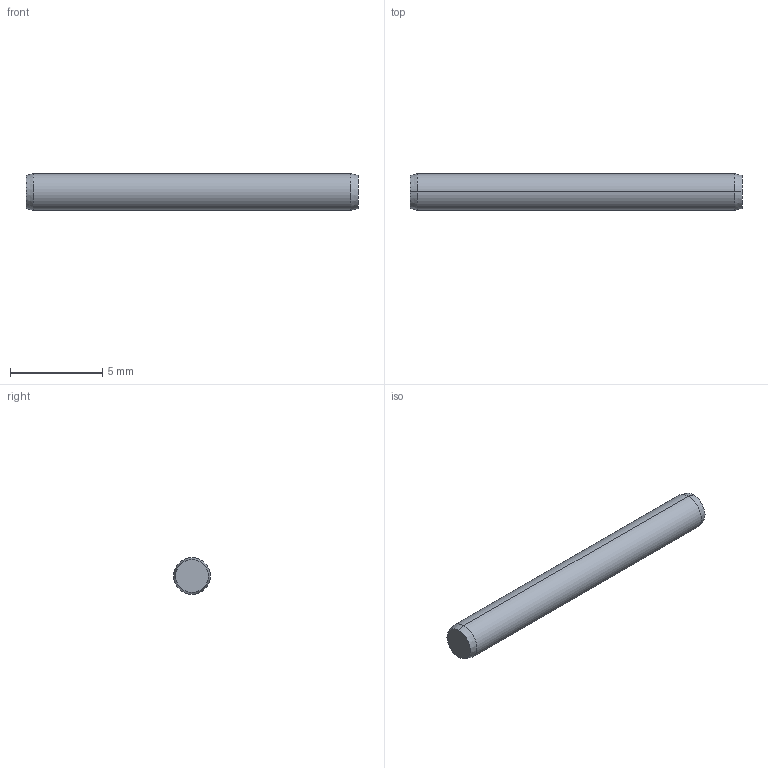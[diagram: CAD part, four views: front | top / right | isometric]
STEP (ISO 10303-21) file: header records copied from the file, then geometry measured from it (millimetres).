
FILE_DESCRIPTION (( 'STEP AP203' ), '1' );
FILE_NAME ('P1206.020-018.step', '2017-06-14T07:57:49', ( 'User' ), ( '' ), 'SwSTEP 2.0', 'SolidWorks 2009', '' );
FILE_SCHEMA (( 'CONFIG_CONTROL_DESIGN' ));
Length unit declared in the file: millimetre
Products named in the file (1): P1206.020-018
Bounding box: 18 x 2 x 2 mm (x, y, z)
Volume: 56.3 mm3; surface area: 118 mm2
Topology: 1 solids, 1 shells, 8 faces, 14 edges, 8 vertices
Faces by surface type: cone 4, cylinder 2, plane 2
Entity records: 271 total; most frequent: DIRECTION 40, CARTESIAN_POINT 31, ORIENTED_EDGE 28, AXIS2_PLACEMENT_3D 17, EDGE_CURVE 14, VERTEX_POINT 8, ADVANCED_FACE 8, EDGE_LOOP 8
